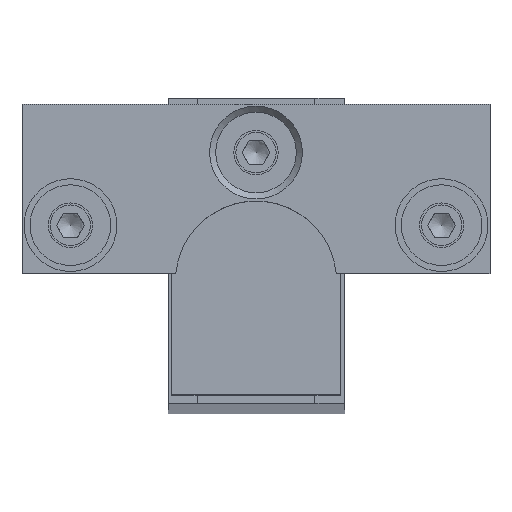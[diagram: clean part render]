
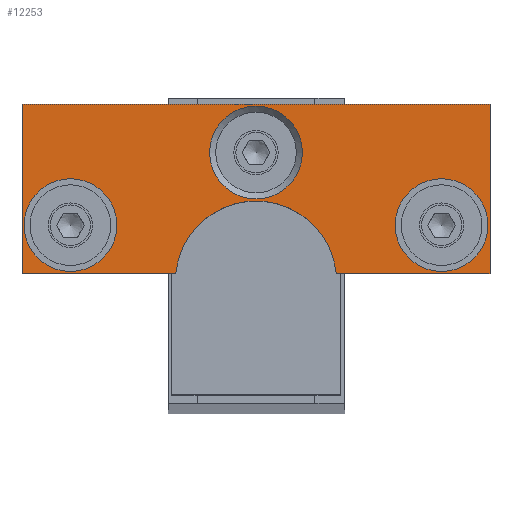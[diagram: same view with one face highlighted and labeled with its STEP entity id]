
A CAD part, top view. The second image highlights one B-rep face of the part: STEP entity #12253.
In plain terms, the highlighted planar face has unit normal (0, 0, 1).
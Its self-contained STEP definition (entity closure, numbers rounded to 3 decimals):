
#299=FACE_BOUND('',#2810,.T.);
#300=FACE_BOUND('',#2811,.T.);
#301=FACE_BOUND('',#2812,.T.);
#494=PLANE('',#13068);
#855=LINE('',#19143,#1349);
#856=LINE('',#19145,#1350);
#857=LINE('',#19147,#1351);
#858=LINE('',#19151,#1352);
#859=LINE('',#19152,#1353);
#1349=VECTOR('',#15005,10.);
#1350=VECTOR('',#15006,10.);
#1351=VECTOR('',#15007,10.);
#1352=VECTOR('',#15010,10.);
#1353=VECTOR('',#15011,10.);
#2121=FACE_OUTER_BOUND('',#2809,.T.);
#2809=EDGE_LOOP('',(#8064,#8065,#8066,#8067,#8068,#8069));
#2810=EDGE_LOOP('',(#8070));
#2811=EDGE_LOOP('',(#8071));
#2812=EDGE_LOOP('',(#8072));
#3673=CIRCLE('',#13066,5.75);
#3675=CIRCLE('',#13069,10.);
#3676=CIRCLE('',#13070,5.75);
#3677=CIRCLE('',#13071,5.75);
#4820=VERTEX_POINT('',#19135);
#4822=VERTEX_POINT('',#19141);
#4823=VERTEX_POINT('',#19142);
#4824=VERTEX_POINT('',#19144);
#4825=VERTEX_POINT('',#19146);
#4826=VERTEX_POINT('',#19148);
#4827=VERTEX_POINT('',#19150);
#4828=VERTEX_POINT('',#19153);
#4829=VERTEX_POINT('',#19155);
#6179=EDGE_CURVE('',#4820,#4820,#3673,.T.);
#6182=EDGE_CURVE('',#4822,#4823,#855,.T.);
#6183=EDGE_CURVE('',#4823,#4824,#856,.T.);
#6184=EDGE_CURVE('',#4824,#4825,#857,.T.);
#6185=EDGE_CURVE('',#4825,#4826,#3675,.T.);
#6186=EDGE_CURVE('',#4826,#4827,#858,.T.);
#6187=EDGE_CURVE('',#4827,#4822,#859,.T.);
#6188=EDGE_CURVE('',#4828,#4828,#3676,.T.);
#6189=EDGE_CURVE('',#4829,#4829,#3677,.T.);
#8064=ORIENTED_EDGE('',*,*,#6182,.T.);
#8065=ORIENTED_EDGE('',*,*,#6183,.T.);
#8066=ORIENTED_EDGE('',*,*,#6184,.T.);
#8067=ORIENTED_EDGE('',*,*,#6185,.T.);
#8068=ORIENTED_EDGE('',*,*,#6186,.T.);
#8069=ORIENTED_EDGE('',*,*,#6187,.T.);
#8070=ORIENTED_EDGE('',*,*,#6188,.F.);
#8071=ORIENTED_EDGE('',*,*,#6189,.F.);
#8072=ORIENTED_EDGE('',*,*,#6179,.F.);
#12253=ADVANCED_FACE('',(#2121,#299,#300,#301),#494,.T.);
#13066=AXIS2_PLACEMENT_3D('',#19136,#14998,#14999);
#13068=AXIS2_PLACEMENT_3D('',#19140,#15003,#15004);
#13069=AXIS2_PLACEMENT_3D('',#19149,#15008,#15009);
#13070=AXIS2_PLACEMENT_3D('',#19154,#15012,#15013);
#13071=AXIS2_PLACEMENT_3D('',#19156,#15014,#15015);
#14998=DIRECTION('center_axis',(0.,0.,
1.));
#14999=DIRECTION('ref_axis',(-1.,0.,0.));
#15003=DIRECTION('center_axis',(0.,0.,
1.));
#15004=DIRECTION('ref_axis',(1.,0.,0.));
#15005=DIRECTION('',(-1.,0.,0.));
#15006=DIRECTION('',(0.,-1.,0.));
#15007=DIRECTION('',(1.,0.,0.));
#15008=DIRECTION('center_axis',(0.,0.,
-1.));
#15009=DIRECTION('ref_axis',(0.995,0.1,0.));
#15010=DIRECTION('',(1.,0.,0.));
#15011=DIRECTION('',(0.,1.,0.));
#15012=DIRECTION('center_axis',(0.,0.,
1.));
#15013=DIRECTION('ref_axis',(-1.,0.,0.));
#15014=DIRECTION('center_axis',(0.,0.,
1.));
#15015=DIRECTION('ref_axis',(-1.,0.,0.));
#19135=CARTESIAN_POINT('',(39.65,22.,416.));
#19136=CARTESIAN_POINT('Origin',(33.9,22.,416.));
#19140=CARTESIAN_POINT('Origin',(10.9,27.153,416.));
#19141=CARTESIAN_POINT('',(39.9,37.,416.));
#19142=CARTESIAN_POINT('',(-18.1,37.,416.));
#19143=CARTESIAN_POINT('',(-18.1,37.,416.));
#19144=CARTESIAN_POINT('',(-18.1,16.,416.));
#19145=CARTESIAN_POINT('',(-18.1,16.,416.));
#19146=CARTESIAN_POINT('',(0.95,16.,416.));
#19147=CARTESIAN_POINT('',(0.95,16.,416.));
#19148=CARTESIAN_POINT('',(20.85,16.,416.));
#19149=CARTESIAN_POINT('Origin',(10.9,15.,416.));
#19150=CARTESIAN_POINT('',(39.9,16.,416.));
#19151=CARTESIAN_POINT('',(39.9,16.,416.));
#19152=CARTESIAN_POINT('',(39.9,37.,416.));
#19153=CARTESIAN_POINT('',(16.65,31.,416.));
#19154=CARTESIAN_POINT('Origin',(10.9,31.,416.));
#19155=CARTESIAN_POINT('',(-6.35,22.,416.));
#19156=CARTESIAN_POINT('Origin',(-12.1,22.,416.));
